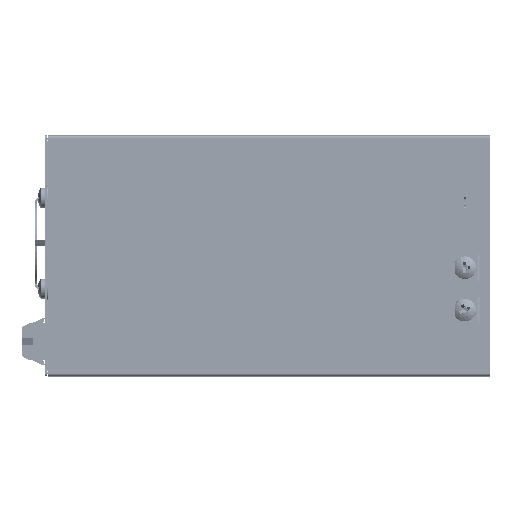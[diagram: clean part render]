
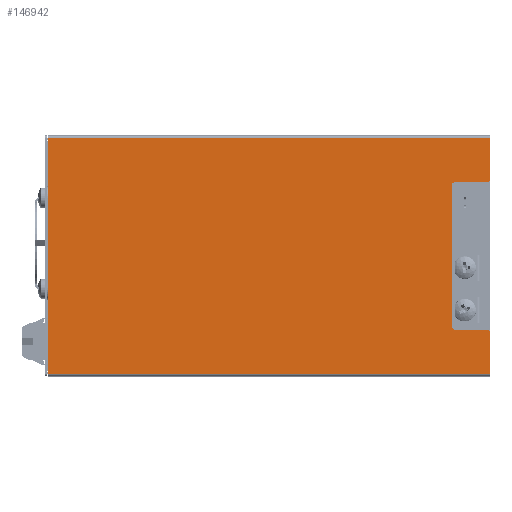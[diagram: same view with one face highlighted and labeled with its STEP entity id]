
A CAD part, top view. The second image highlights one B-rep face of the part: STEP entity #146942.
In plain terms, the highlighted planar face has unit normal (0, 0, 1).
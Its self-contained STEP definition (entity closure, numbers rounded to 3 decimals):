
#8011 = CARTESIAN_POINT ( 'NONE',  ( 77., -26., 0. ) ) ;
#9506 = ORIENTED_EDGE ( 'NONE', *, *, #286781, .F. ) ;
#15460 = ORIENTED_EDGE ( 'NONE', *, *, #177855, .T. ) ;
#18386 = LINE ( 'NONE', #256203, #235573 ) ;
#19402 = LINE ( 'NONE', #156055, #155832 ) ;
#22922 = VECTOR ( 'NONE', #197914, 1000. ) ;
#26583 = EDGE_CURVE ( 'NONE', #94262, #228531, #18386, .T. ) ;
#32102 = LINE ( 'NONE', #276332, #113061 ) ;
#40447 = VERTEX_POINT ( 'NONE', #307621 ) ;
#47074 = VERTEX_POINT ( 'NONE', #343767 ) ;
#49186 = DIRECTION ( 'NONE',  ( -1., 0., 0. ) ) ;
#50055 = CARTESIAN_POINT ( 'NONE',  ( 78., 41.5, 0. ) ) ;
#56346 = DIRECTION ( 'NONE',  ( 0., -1., 0. ) ) ;
#57184 = CARTESIAN_POINT ( 'NONE',  ( 78., 42.5, 0. ) ) ;
#58577 = DIRECTION ( 'NONE',  ( 1., 0., 0. ) ) ;
#59969 = EDGE_CURVE ( 'NONE', #259309, #246351, #152829, .T. ) ;
#62231 = AXIS2_PLACEMENT_3D ( 'NONE', #211298, #79121, #296752 ) ;
#66957 = FACE_OUTER_BOUND ( 'NONE', #175439, .T. ) ;
#70974 = ORIENTED_EDGE ( 'NONE', *, *, #132779, .F. ) ;
#74907 = DIRECTION ( 'NONE',  ( 0., 0., 1. ) ) ;
#77221 = VERTEX_POINT ( 'NONE', #116429 ) ;
#77240 = CARTESIAN_POINT ( 'NONE',  ( 77., -27., 0. ) ) ;
#77394 = EDGE_CURVE ( 'NONE', #172026, #94262, #144683, .T. ) ;
#79121 = DIRECTION ( 'NONE',  ( 0., 0., -1. ) ) ;
#84986 = CARTESIAN_POINT ( 'NONE',  ( 77., 26., 0. ) ) ;
#91486 = AXIS2_PLACEMENT_3D ( 'NONE', #225131, #144242, #58577 ) ;
#94262 = VERTEX_POINT ( 'NONE', #138297 ) ;
#97771 = VECTOR ( 'NONE', #325451, 1000. ) ;
#99104 = CARTESIAN_POINT ( 'NONE',  ( 78., 41.5, 0. ) ) ;
#103841 = EDGE_CURVE ( 'NONE', #47074, #172026, #333901, .T. ) ;
#106915 = CIRCLE ( 'NONE', #91486, 1. ) ;
#112213 = AXIS2_PLACEMENT_3D ( 'NONE', #146172, #175826, #149690 ) ;
#113061 = VECTOR ( 'NONE', #56346, 1000. ) ;
#116429 = CARTESIAN_POINT ( 'NONE',  ( 65.6, 26., 0. ) ) ;
#125114 = CIRCLE ( 'NONE', #188147, 1. ) ;
#132779 = EDGE_CURVE ( 'NONE', #259309, #77221, #289415, .T. ) ;
#138297 = CARTESIAN_POINT ( 'NONE',  ( 78., -41.5, 0. ) ) ;
#144242 = DIRECTION ( 'NONE',  ( 0., 0., -1. ) ) ;
#144683 = LINE ( 'NONE', #187619, #97771 ) ;
#144806 = VECTOR ( 'NONE', #153497, 1000. ) ;
#146172 = CARTESIAN_POINT ( 'NONE',  ( 77., 27., 0. ) ) ;
#146942 = ADVANCED_FACE ( 'NONE', ( #66957 ), #160758, .T. ) ;
#148642 = ORIENTED_EDGE ( 'NONE', *, *, #26583, .T. ) ;
#149690 = DIRECTION ( 'NONE',  ( 1., 0., 0. ) ) ;
#152829 = CIRCLE ( 'NONE', #112213, 1. ) ;
#153148 = ORIENTED_EDGE ( 'NONE', *, *, #157634, .T. ) ;
#153497 = DIRECTION ( 'NONE',  ( -1., 0., 0. ) ) ;
#155832 = VECTOR ( 'NONE', #346246, 1000. ) ;
#156055 = CARTESIAN_POINT ( 'NONE',  ( 78., -26., 0. ) ) ;
#157634 = EDGE_CURVE ( 'NONE', #196203, #77221, #270507, .T. ) ;
#160758 = PLANE ( 'NONE',  #266861 ) ;
#172026 = VERTEX_POINT ( 'NONE', #249108 ) ;
#175439 = EDGE_LOOP ( 'NONE', ( #148642, #184540, #9506, #15460, #352082, #153148, #70974, #221211, #344289, #222247, #341387, #307175 ) ) ;
#175826 = DIRECTION ( 'NONE',  ( 0., 0., 1. ) ) ;
#177855 = EDGE_CURVE ( 'NONE', #323750, #40447, #106915, .T. ) ;
#184540 = ORIENTED_EDGE ( 'NONE', *, *, #344548, .T. ) ;
#187619 = CARTESIAN_POINT ( 'NONE',  ( -78., -41.5, 0. ) ) ;
#188147 = AXIS2_PLACEMENT_3D ( 'NONE', #77240, #74907, #318616 ) ;
#191840 = CARTESIAN_POINT ( 'NONE',  ( 65.6, -26., 0. ) ) ;
#196203 = VERTEX_POINT ( 'NONE', #201424 ) ;
#197914 = DIRECTION ( 'NONE',  ( 0., 1., 0. ) ) ;
#201424 = CARTESIAN_POINT ( 'NONE',  ( 64.6, 25., 0. ) ) ;
#211298 = CARTESIAN_POINT ( 'NONE',  ( 65.6, 25., 0. ) ) ;
#216394 = EDGE_CURVE ( 'NONE', #246351, #226483, #316741, .T. ) ;
#221211 = ORIENTED_EDGE ( 'NONE', *, *, #59969, .T. ) ;
#222247 = ORIENTED_EDGE ( 'NONE', *, *, #237175, .T. ) ;
#225131 = CARTESIAN_POINT ( 'NONE',  ( 65.6, -25., 0. ) ) ;
#226483 = VERTEX_POINT ( 'NONE', #50055 ) ;
#228531 = VERTEX_POINT ( 'NONE', #291232 ) ;
#233801 = VECTOR ( 'NONE', #49186, 1000. ) ;
#235573 = VECTOR ( 'NONE', #257371, 1000. ) ;
#237175 = EDGE_CURVE ( 'NONE', #226483, #47074, #306063, .T. ) ;
#239177 = DIRECTION ( 'NONE',  ( 1., 0., 0. ) ) ;
#246351 = VERTEX_POINT ( 'NONE', #286976 ) ;
#249108 = CARTESIAN_POINT ( 'NONE',  ( -78., -41.5, 0. ) ) ;
#256203 = CARTESIAN_POINT ( 'NONE',  ( 78., 42.5, 0. ) ) ;
#257371 = DIRECTION ( 'NONE',  ( 0., 1., 0. ) ) ;
#259309 = VERTEX_POINT ( 'NONE', #84986 ) ;
#266861 = AXIS2_PLACEMENT_3D ( 'NONE', #268828, #318775, #239177 ) ;
#267635 = DIRECTION ( 'NONE',  ( 0., -1., 0. ) ) ;
#267647 = EDGE_CURVE ( 'NONE', #196203, #40447, #32102, .T. ) ;
#268828 = CARTESIAN_POINT ( 'NONE',  ( 0., 0., 0. ) ) ;
#270507 = CIRCLE ( 'NONE', #62231, 1. ) ;
#276332 = CARTESIAN_POINT ( 'NONE',  ( 64.6, -26., 0. ) ) ;
#286781 = EDGE_CURVE ( 'NONE', #323750, #302547, #19402, .T. ) ;
#286976 = CARTESIAN_POINT ( 'NONE',  ( 78., 27., 0. ) ) ;
#288887 = CARTESIAN_POINT ( 'NONE',  ( 78., 26., 0. ) ) ;
#289415 = LINE ( 'NONE', #288887, #144806 ) ;
#291232 = CARTESIAN_POINT ( 'NONE',  ( 78., -27., 0. ) ) ;
#295015 = CARTESIAN_POINT ( 'NONE',  ( -78., 42.5, 0. ) ) ;
#296752 = DIRECTION ( 'NONE',  ( 1., 0., 0. ) ) ;
#302547 = VERTEX_POINT ( 'NONE', #8011 ) ;
#306063 = LINE ( 'NONE', #99104, #233801 ) ;
#307175 = ORIENTED_EDGE ( 'NONE', *, *, #77394, .T. ) ;
#307621 = CARTESIAN_POINT ( 'NONE',  ( 64.6, -25., 0. ) ) ;
#316741 = LINE ( 'NONE', #57184, #22922 ) ;
#318616 = DIRECTION ( 'NONE',  ( 1., 0., 0. ) ) ;
#318775 = DIRECTION ( 'NONE',  ( 0., 0., 1. ) ) ;
#323750 = VERTEX_POINT ( 'NONE', #191840 ) ;
#325451 = DIRECTION ( 'NONE',  ( 1., 0., 0. ) ) ;
#333901 = LINE ( 'NONE', #295015, #338037 ) ;
#338037 = VECTOR ( 'NONE', #267635, 1000. ) ;
#341387 = ORIENTED_EDGE ( 'NONE', *, *, #103841, .T. ) ;
#343767 = CARTESIAN_POINT ( 'NONE',  ( -78., 41.5, 0. ) ) ;
#344289 = ORIENTED_EDGE ( 'NONE', *, *, #216394, .T. ) ;
#344548 = EDGE_CURVE ( 'NONE', #228531, #302547, #125114, .T. ) ;
#346246 = DIRECTION ( 'NONE',  ( 1., 0., 0. ) ) ;
#352082 = ORIENTED_EDGE ( 'NONE', *, *, #267647, .F. ) ;
